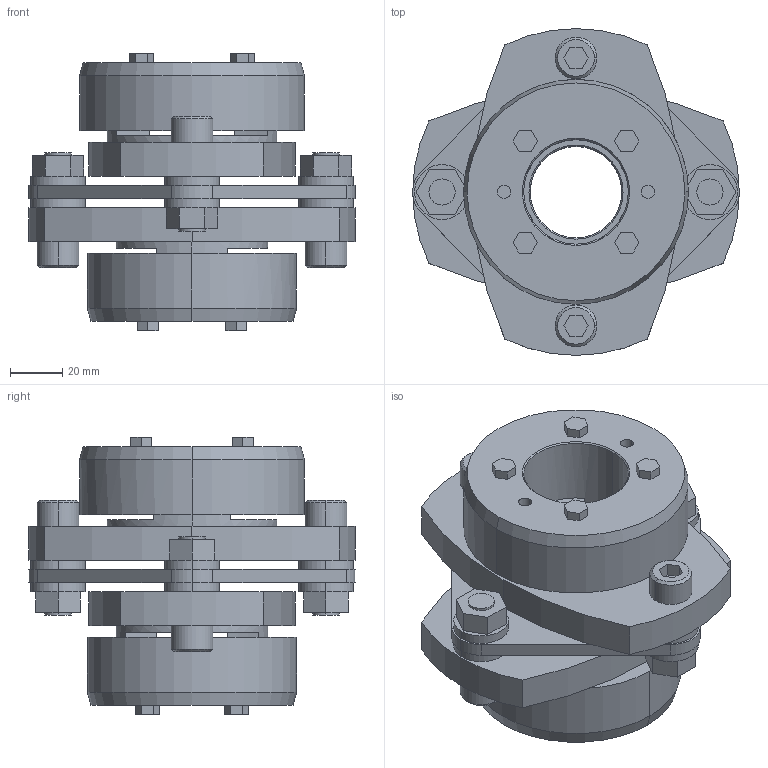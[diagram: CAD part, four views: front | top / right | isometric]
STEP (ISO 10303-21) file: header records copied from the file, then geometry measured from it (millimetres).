
FILE_DESCRIPTION((''),'2;1');
FILE_NAME('LCS-125T7-35×40.stp','2011-09-07T09:56:21',(''),(''),'AutoCAD STEP 2000i','AutoCAD 2000i',', , ');
FILE_SCHEMA(('CONFIG_CONTROL_DESIGN'));
Length unit declared in the file: millimetre
Products named in the file (9): LCS-125T7-35×40; 忣兜1; LC125T7-T040; LC125T7-T038; LC125T7-T035-1; LC125T7-T035; LC125T7-T032-1; LC125T7-T032; LCS125-ITA
Assembly tree (8 placements, depth 2):
  LCS-125T7-35×40
    忣兜1
    LC125T7-T040
    LC125T7-T038
    LC125T7-T035-1
    LC125T7-T035
    LC125T7-T032-1
    LC125T7-T032
    LCS125-ITA
Bounding box: 125 x 125 x 106 mm (x, y, z)
Volume: 485188.7 mm3; surface area: 98101.6 mm2
Topology: 1 solids, 1 shells, 246 faces, 606 edges, 398 vertices
Faces by surface type: plane 146, cylinder 80, cone 20
Entity records: 7527 total; most frequent: DIRECTION 1314, CARTESIAN_POINT 1259, ORIENTED_EDGE 1212, EDGE_CURVE 606, AXIS2_PLACEMENT_3D 453, VECTOR 408, LINE 408, VERTEX_POINT 398
